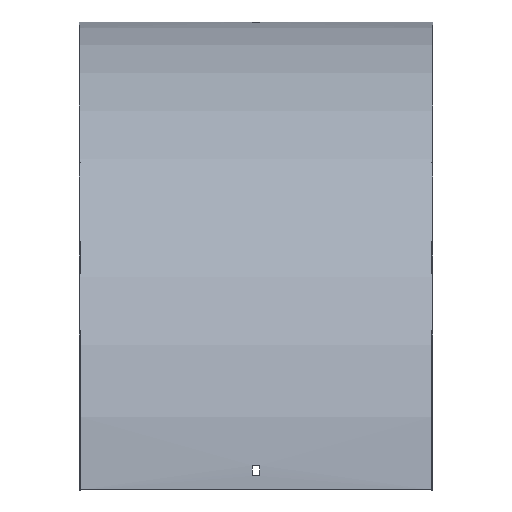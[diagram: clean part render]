
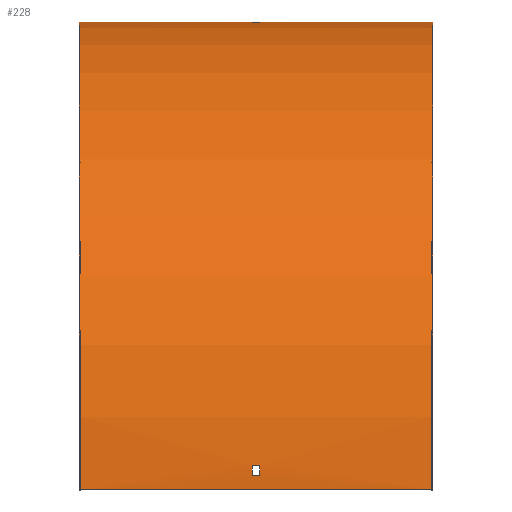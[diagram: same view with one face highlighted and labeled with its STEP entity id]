
A CAD part, top view. The second image highlights one B-rep face of the part: STEP entity #228.
In plain terms, the highlighted cylindrical face has radius 401.5 mm (diameter 803 mm), a partial arc.
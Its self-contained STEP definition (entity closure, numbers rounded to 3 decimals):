
#2 = ORIENTED_EDGE ( 'NONE', *, *, #602, .T. ) ;
#4 = DIRECTION ( 'NONE',  ( 0., 1., 0. ) ) ;
#18 = ORIENTED_EDGE ( 'NONE', *, *, #341, .F. ) ;
#21 = CARTESIAN_POINT ( 'NONE',  ( 3.25, -401.5, 0. ) ) ;
#23 = ORIENTED_EDGE ( 'NONE', *, *, #141, .F. ) ;
#24 = EDGE_CURVE ( 'NONE', #553, #363, #83, .T. ) ;
#34 = VECTOR ( 'NONE', #430, 1000. ) ;
#47 = CARTESIAN_POINT ( 'NONE',  ( 151.5, -401.5, 401.5 ) ) ;
#62 = CYLINDRICAL_SURFACE ( 'NONE', #460, 401.5 ) ;
#67 = ORIENTED_EDGE ( 'NONE', *, *, #258, .F. ) ;
#76 = DIRECTION ( 'NONE',  ( -1., 0., 0. ) ) ;
#78 = ORIENTED_EDGE ( 'NONE', *, *, #549, .T. ) ;
#80 = VERTEX_POINT ( 'NONE', #192 ) ;
#81 = CARTESIAN_POINT ( 'NONE',  ( -151.5, 0., 0. ) ) ;
#83 = CIRCLE ( 'NONE', #472, 401.5 ) ;
#85 = VERTEX_POINT ( 'NONE', #96 ) ;
#96 = CARTESIAN_POINT ( 'NONE',  ( 3.25, -0.55, 21. ) ) ;
#97 = ORIENTED_EDGE ( 'NONE', *, *, #24, .F. ) ;
#100 = ORIENTED_EDGE ( 'NONE', *, *, #133, .T. ) ;
#112 = DIRECTION ( 'NONE',  ( 1., 0., 0. ) ) ;
#119 = EDGE_CURVE ( 'NONE', #253, #145, #296, .T. ) ;
#120 = DIRECTION ( 'NONE',  ( 0., 0., 1. ) ) ;
#124 = AXIS2_PLACEMENT_3D ( 'NONE', #21, #305, #359 ) ;
#133 = EDGE_CURVE ( 'NONE', #477, #257, #250, .T. ) ;
#141 = EDGE_CURVE ( 'NONE', #363, #80, #566, .T. ) ;
#145 = VERTEX_POINT ( 'NONE', #203 ) ;
#146 = CARTESIAN_POINT ( 'NONE',  ( -3.25, -0.55, 21. ) ) ;
#148 = EDGE_LOOP ( 'NONE', ( #366, #416, #67, #2 ) ) ;
#153 = DIRECTION ( 'NONE',  ( 0., 0., -1. ) ) ;
#163 = ORIENTED_EDGE ( 'NONE', *, *, #554, .F. ) ;
#169 = DIRECTION ( 'NONE',  ( 0., 0., 1. ) ) ;
#175 = VECTOR ( 'NONE', #410, 1000. ) ;
#181 = LINE ( 'NONE', #457, #417 ) ;
#192 = CARTESIAN_POINT ( 'NONE',  ( 3.25, -389.5, 401.321 ) ) ;
#196 = VERTEX_POINT ( 'NONE', #262 ) ;
#203 = CARTESIAN_POINT ( 'NONE',  ( -151.5, -401.5, 401.5 ) ) ;
#206 = CARTESIAN_POINT ( 'NONE',  ( 151.5, -401.5, 0. ) ) ;
#207 = DIRECTION ( 'NONE',  ( -1., 0., 0. ) ) ;
#212 = AXIS2_PLACEMENT_3D ( 'NONE', #475, #438, #244 ) ;
#214 = CARTESIAN_POINT ( 'NONE',  ( 151.5, 0., 0. ) ) ;
#219 = VERTEX_POINT ( 'NONE', #489 ) ;
#220 = AXIS2_PLACEMENT_3D ( 'NONE', #485, #76, #169 ) ;
#228 = ADVANCED_FACE ( 'NONE', ( #542, #488, #591 ), #62, .T. ) ;
#244 = DIRECTION ( 'NONE',  ( 0., 0., 1. ) ) ;
#250 = CIRCLE ( 'NONE', #212, 401.5 ) ;
#253 = VERTEX_POINT ( 'NONE', #365 ) ;
#257 = VERTEX_POINT ( 'NONE', #311 ) ;
#258 = EDGE_CURVE ( 'NONE', #196, #253, #547, .T. ) ;
#262 = CARTESIAN_POINT ( 'NONE',  ( 151.5, 0., 0. ) ) ;
#263 = EDGE_LOOP ( 'NONE', ( #284, #100, #78, #281 ) ) ;
#274 = EDGE_CURVE ( 'NONE', #85, #477, #404, .T. ) ;
#276 = DIRECTION ( 'NONE',  ( -1., 0., 0. ) ) ;
#279 = DIRECTION ( 'NONE',  ( 1., 0., 0. ) ) ;
#281 = ORIENTED_EDGE ( 'NONE', *, *, #589, .T. ) ;
#282 = CARTESIAN_POINT ( 'NONE',  ( 3.25, -380.5, 400.95 ) ) ;
#284 = ORIENTED_EDGE ( 'NONE', *, *, #274, .T. ) ;
#286 = CARTESIAN_POINT ( 'NONE',  ( -151.5, -401.5, 0. ) ) ;
#295 = CARTESIAN_POINT ( 'NONE',  ( -3.25, -380.5, 400.95 ) ) ;
#296 = LINE ( 'NONE', #47, #302 ) ;
#298 = VECTOR ( 'NONE', #207, 1000. ) ;
#301 = DIRECTION ( 'NONE',  ( -1., 0., 0. ) ) ;
#302 = VECTOR ( 'NONE', #343, 1000. ) ;
#305 = DIRECTION ( 'NONE',  ( 1., 0., 0. ) ) ;
#311 = CARTESIAN_POINT ( 'NONE',  ( -3.25, -0.179, 12. ) ) ;
#337 = LINE ( 'NONE', #523, #593 ) ;
#341 = EDGE_CURVE ( 'NONE', #506, #553, #181, .T. ) ;
#343 = DIRECTION ( 'NONE',  ( -1., 0., 0. ) ) ;
#359 = DIRECTION ( 'NONE',  ( 0., 0., -1. ) ) ;
#363 = VERTEX_POINT ( 'NONE', #421 ) ;
#365 = CARTESIAN_POINT ( 'NONE',  ( 151.5, -401.5, 401.5 ) ) ;
#366 = ORIENTED_EDGE ( 'NONE', *, *, #456, .T. ) ;
#375 = VERTEX_POINT ( 'NONE', #81 ) ;
#383 = CARTESIAN_POINT ( 'NONE',  ( 151.5, -389.5, 401.321 ) ) ;
#403 = LINE ( 'NONE', #214, #298 ) ;
#404 = LINE ( 'NONE', #443, #175 ) ;
#410 = DIRECTION ( 'NONE',  ( -1., 0., 0. ) ) ;
#416 = ORIENTED_EDGE ( 'NONE', *, *, #119, .F. ) ;
#417 = VECTOR ( 'NONE', #276, 1000. ) ;
#421 = CARTESIAN_POINT ( 'NONE',  ( -3.25, -389.5, 401.321 ) ) ;
#423 = CIRCLE ( 'NONE', #220, 401.5 ) ;
#430 = DIRECTION ( 'NONE',  ( 1., 0., 0. ) ) ;
#433 = DIRECTION ( 'NONE',  ( 1., 0., 0. ) ) ;
#438 = DIRECTION ( 'NONE',  ( -1., 0., 0. ) ) ;
#441 = EDGE_LOOP ( 'NONE', ( #97, #18, #163, #23 ) ) ;
#443 = CARTESIAN_POINT ( 'NONE',  ( 151.5, -0.55, 21. ) ) ;
#454 = CARTESIAN_POINT ( 'NONE',  ( 151.5, -401.5, 0. ) ) ;
#456 = EDGE_CURVE ( 'NONE', #375, #145, #476, .T. ) ;
#457 = CARTESIAN_POINT ( 'NONE',  ( 151.5, -380.5, 400.95 ) ) ;
#460 = AXIS2_PLACEMENT_3D ( 'NONE', #206, #301, #120 ) ;
#472 = AXIS2_PLACEMENT_3D ( 'NONE', #515, #279, #4 ) ;
#475 = CARTESIAN_POINT ( 'NONE',  ( -3.25, -401.5, 0. ) ) ;
#476 = CIRCLE ( 'NONE', #525, 401.5 ) ;
#477 = VERTEX_POINT ( 'NONE', #146 ) ;
#485 = CARTESIAN_POINT ( 'NONE',  ( 3.25, -401.5, 0. ) ) ;
#488 = FACE_BOUND ( 'NONE', #263, .T. ) ;
#489 = CARTESIAN_POINT ( 'NONE',  ( 3.25, -0.179, 12. ) ) ;
#506 = VERTEX_POINT ( 'NONE', #282 ) ;
#508 = AXIS2_PLACEMENT_3D ( 'NONE', #454, #112, #546 ) ;
#515 = CARTESIAN_POINT ( 'NONE',  ( -3.25, -401.5, 0. ) ) ;
#523 = CARTESIAN_POINT ( 'NONE',  ( 151.5, -0.179, 12. ) ) ;
#525 = AXIS2_PLACEMENT_3D ( 'NONE', #286, #573, #153 ) ;
#542 = FACE_OUTER_BOUND ( 'NONE', #148, .T. ) ;
#546 = DIRECTION ( 'NONE',  ( 0., 0., -1. ) ) ;
#547 = CIRCLE ( 'NONE', #508, 401.5 ) ;
#549 = EDGE_CURVE ( 'NONE', #257, #219, #337, .T. ) ;
#553 = VERTEX_POINT ( 'NONE', #295 ) ;
#554 = EDGE_CURVE ( 'NONE', #80, #506, #423, .T. ) ;
#562 = CIRCLE ( 'NONE', #124, 401.5 ) ;
#566 = LINE ( 'NONE', #383, #34 ) ;
#573 = DIRECTION ( 'NONE',  ( 1., 0., 0. ) ) ;
#589 = EDGE_CURVE ( 'NONE', #219, #85, #562, .T. ) ;
#591 = FACE_BOUND ( 'NONE', #441, .T. ) ;
#593 = VECTOR ( 'NONE', #433, 1000. ) ;
#602 = EDGE_CURVE ( 'NONE', #196, #375, #403, .T. ) ;
